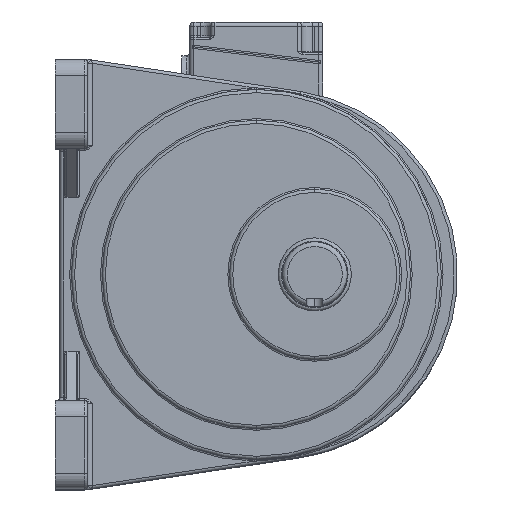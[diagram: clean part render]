
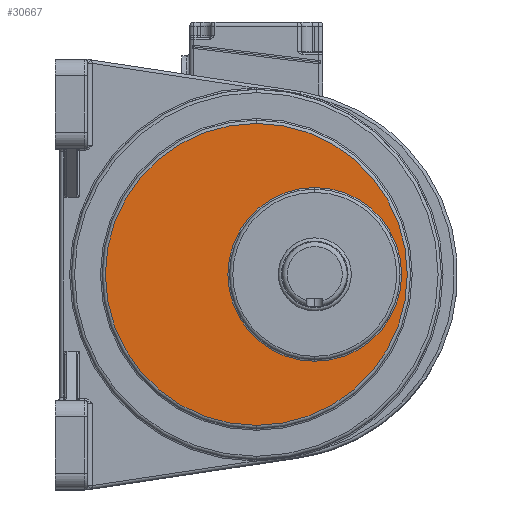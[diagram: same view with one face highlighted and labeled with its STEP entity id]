
A CAD part, top view. The second image highlights one B-rep face of the part: STEP entity #30667.
In plain terms, the highlighted planar face has unit normal (0, 0, 1).
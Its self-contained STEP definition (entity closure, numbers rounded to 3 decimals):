
#30591=CARTESIAN_POINT('',(6215.338,-1616.722,265.896));
#30592=VERTEX_POINT('',#30591);
#30601=CARTESIAN_POINT('',(6215.338,-1509.722,265.896));
#30602=VERTEX_POINT('',#30601);
#30610=CARTESIAN_POINT('',(6215.338,-1563.222,265.896));
#30611=DIRECTION('',(0.,-0.,1.));
#30612=DIRECTION('',(0.,1.,0.));
#30613=AXIS2_PLACEMENT_3D('',#30610,#30611,#30612);
#30614=CIRCLE('',#30613,53.5);
#30615=EDGE_CURVE('',#30602,#30592,#30614,.T.);
#30628=CARTESIAN_POINT('',(6215.338,-1563.222,265.896));
#30629=DIRECTION('',(0.,0.,1.));
#30630=DIRECTION('',(0.,-1.,0.));
#30631=AXIS2_PLACEMENT_3D('',#30628,#30629,#30630);
#30632=CIRCLE('',#30631,53.5);
#30633=EDGE_CURVE('',#30592,#30602,#30632,.T.);
#30638=CARTESIAN_POINT('',(6179.338,-1563.222,265.896));
#30639=DIRECTION('',(0.,0.,1.));
#30640=DIRECTION('',(0.,-1.,0.));
#30641=AXIS2_PLACEMENT_3D('',#30638,#30639,#30640);
#30642=PLANE('',#30641);
#30643=CARTESIAN_POINT('',(6179.338,-1656.222,265.896));
#30644=VERTEX_POINT('',#30643);
#30645=CARTESIAN_POINT('',(6179.338,-1470.222,265.896));
#30646=VERTEX_POINT('',#30645);
#30647=CARTESIAN_POINT('',(6179.338,-1563.222,265.896));
#30648=DIRECTION('',(0.,0.,1.));
#30649=DIRECTION('',(0.,-1.,0.));
#30650=AXIS2_PLACEMENT_3D('',#30647,#30648,#30649);
#30651=CIRCLE('',#30650,93.);
#30652=EDGE_CURVE('',#30644,#30646,#30651,.T.);
#30653=ORIENTED_EDGE('',*,*,#30652,.T.);
#30654=CARTESIAN_POINT('',(6179.338,-1563.222,265.896));
#30655=DIRECTION('',(0.,-0.,1.));
#30656=DIRECTION('',(0.,1.,0.));
#30657=AXIS2_PLACEMENT_3D('',#30654,#30655,#30656);
#30658=CIRCLE('',#30657,93.);
#30659=EDGE_CURVE('',#30646,#30644,#30658,.T.);
#30660=ORIENTED_EDGE('',*,*,#30659,.T.);
#30661=EDGE_LOOP('',(#30653,#30660));
#30662=FACE_BOUND('',#30661,.T.);
#30663=ORIENTED_EDGE('',*,*,#30633,.F.);
#30664=ORIENTED_EDGE('',*,*,#30615,.F.);
#30665=EDGE_LOOP('',(#30663,#30664));
#30666=FACE_BOUND('',#30665,.T.);
#30667=ADVANCED_FACE('',(#30662,#30666),#30642,.T.);
